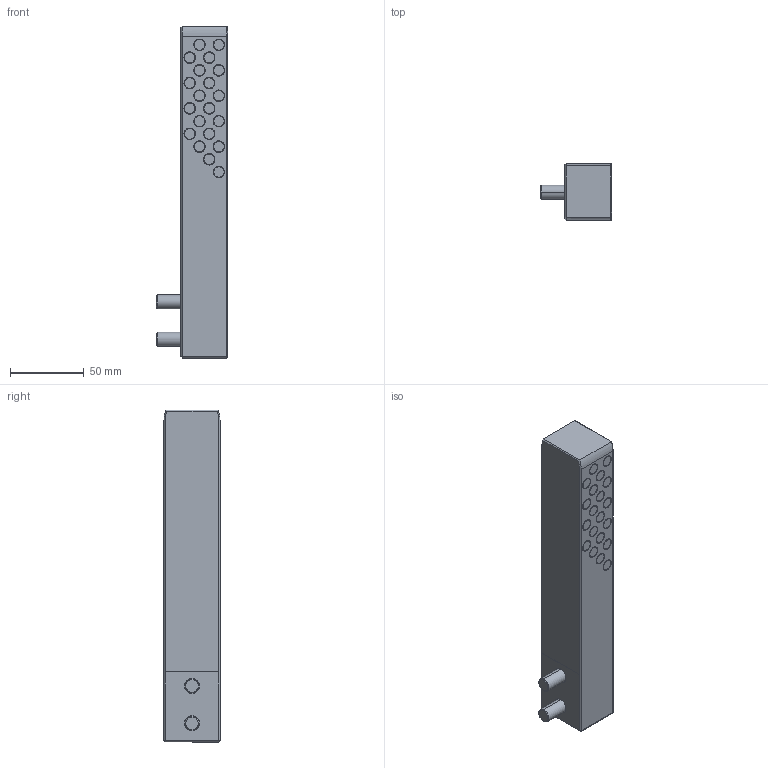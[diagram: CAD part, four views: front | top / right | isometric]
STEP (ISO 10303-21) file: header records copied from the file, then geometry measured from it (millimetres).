
FILE_DESCRIPTION (( 'STEP AP214' ), '1' );
FILE_NAME ('BLB125L9.step', '2018-04-20T15:11:09', ( '' ), ( '' ), 'SwSTEP 2.0', 'SolidWorks 2015', '' );
FILE_SCHEMA (( 'AUTOMOTIVE_DESIGN' ));
Length unit declared in the file: inch
Products named in the file (3): 3-8-16x 150SHCS; BLB125L9
Assembly tree (3 placements, depth 2):
  BLB125L9
    BLB125L9
    3-8-16x 150SHCS  x2
Bounding box: 48.26 x 38.1 x 225.55 mm (x, y, z)
Volume: 271719.6 mm3; surface area: 39963.6 mm2
Topology: 3 solids, 3 shells, 326 faces, 668 edges, 432 vertices
Faces by surface type: cylinder 184, plane 126, torus 8, cone 8
Entity records: 8236 total; most frequent: DIRECTION 1594, CARTESIAN_POINT 1358, ORIENTED_EDGE 1232, AXIS2_PLACEMENT_3D 678, EDGE_CURVE 616, VERTEX_POINT 402, EDGE_LOOP 390, CIRCLE 370
